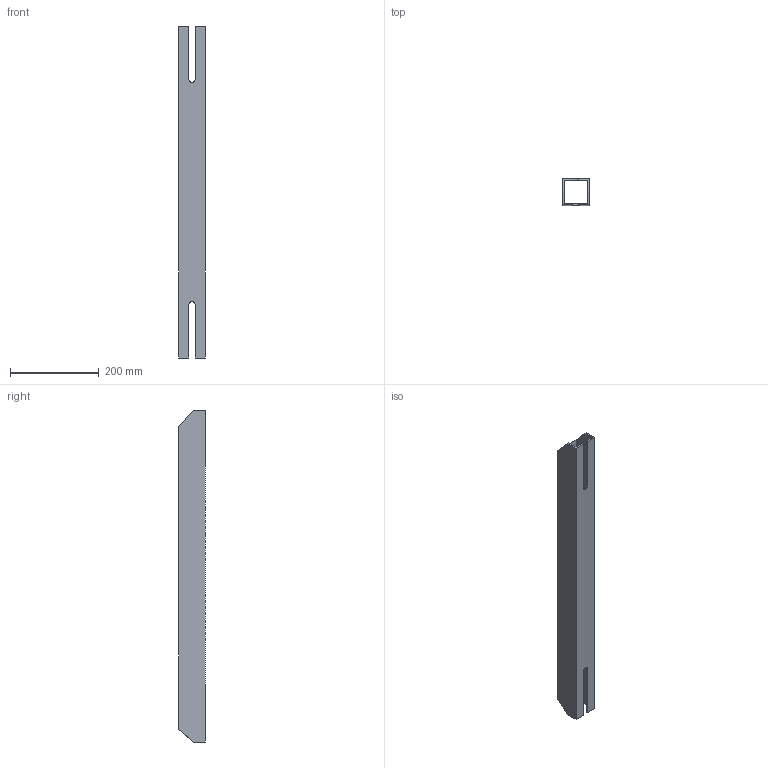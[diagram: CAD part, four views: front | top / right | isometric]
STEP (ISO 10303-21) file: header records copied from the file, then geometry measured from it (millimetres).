
FILE_DESCRIPTION(('Open CASCADE Model'),'2;1');
FILE_NAME('Open CASCADE Shape Model','2026-10-19T10:09:24',('Author'),( 'Open CASCADE'),'Open CASCADE STEP processor 8.0','Open CASCADE 8.0' ,'Unknown');
FILE_SCHEMA(('AUTOMOTIVE_DESIGN { 1 0 10303 214 1 1 1 1 }'));
Length unit declared in the file: millimetre
Products named in the file (1): SHS60x60x4_L748810_SLOT_P05_JUNTA_3 153
Bounding box: 60 x 60 x 748.81 mm (x, y, z)
Volume: 624678.1 mm3; surface area: 317920.1 mm2
Topology: 1 solids, 1 shells, 30 faces, 90 edges, 60 vertices
Faces by surface type: plane 24, cylinder 6
Entity records: 2208 total; most frequent: CARTESIAN_POINT 397, DIRECTION 338, LINE 246, VECTOR 246, ORIENTED_EDGE 180, PCURVE 180, DEFINITIONAL_REPRESENTATION 180, EDGE_CURVE 90
